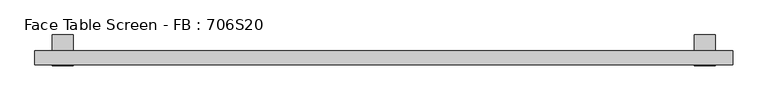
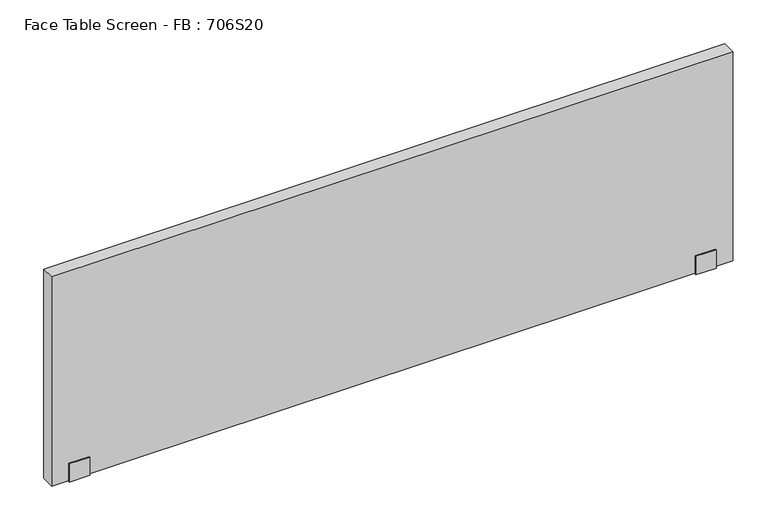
"""IFC4 building model written with IfcOpenShell, lengths in millimetres: furniture geometry, Face Table Screen - FB : 706S20."""

import ifcopenshell
import ifcopenshell.guid

model = None  # the IFC model being written
_history = None  # IfcOwnerHistory: only IFC2X3 demands one
_inside = {}  # id of a spatial element -> (the spatial element, [elements in it])
_under = {}  # id of a project, library or spatial element -> (it, [spatial elements below it])
_declared = {}  # id of a project -> (the project, [libraries it declares])
_typed = {}  # id of a type object -> (the type object, [elements of that type])
_made_of = {}  # id of a material, layer set ... -> (it, [elements and type objects made of it])


def new_model(schema):
    """Start an empty IFC model of exactly this schema.

    Asked for "IFC4X3", IfcOpenShell would pick the latest addendum, in which some entities
    have other attributes; the version numbers below select the first issue.
    IFC2X3 requires an IfcOwnerHistory on every rooted entity: one is made here for all.
    """
    global model, _history
    if schema == "IFC4X3":
        model = ifcopenshell.file(schema_version=(4, 3, 0, 0))
    else:
        model = ifcopenshell.file(schema=schema)
    _inside.clear()
    _under.clear()
    _declared.clear()
    _typed.clear()
    _made_of.clear()
    _history = None
    if model.schema == "IFC2X3":
        org = make("IfcOrganization", Name="unknown")
        user = make(
            "IfcPersonAndOrganization",
            ThePerson=make("IfcPerson", FamilyName="unknown"),
            TheOrganization=org,
        )
        app = make(
            "IfcApplication",
            ApplicationDeveloper=org,
            Version="unknown",
            ApplicationFullName="unknown",
            ApplicationIdentifier="unknown",
        )
        _history = make(
            "IfcOwnerHistory",
            OwningUser=user,
            OwningApplication=app,
            ChangeAction="ADDED",
            CreationDate=0,
        )
    return model


def make(cls, **values):
    """One entity of the class cls with the attributes given. An attribute that is None is left unset."""
    return model.create_entity(
        cls, **{name: value for name, value in values.items() if value is not None}
    )


def rooted(cls, **values):
    """An entity with a GlobalId (a new one), such as an element, a storey or a relation."""
    return make(cls, GlobalId=ifcopenshell.guid.new(), OwnerHistory=_history, **values)


def si_unit(unit_type, name, prefix=None):
    """IfcSIUnit, for example si_unit("LENGTHUNIT", "METRE", prefix="MILLI")."""
    return make("IfcSIUnit", UnitType=unit_type, Prefix=prefix, Name=name)


def assignment(units):
    """IfcUnitAssignment: the units of a project."""
    return None if units is None else make("IfcUnitAssignment", Units=units)


def point(xyz):
    """IfcCartesianPoint."""
    return None if xyz is None else make("IfcCartesianPoint", Coordinates=xyz)


def direction(xyz):
    """IfcDirection."""
    return None if xyz is None else make("IfcDirection", DirectionRatios=xyz)


def frame(location, z_axis=None, x_axis=None):
    """IfcAxis2Placement3D, a coordinate frame: its origin and axes. An axis left out is left unset."""
    return make(
        "IfcAxis2Placement3D",
        Location=point(location),
        Axis=direction(z_axis),
        RefDirection=direction(x_axis),
    )


def origin():
    """The frame at (0, 0, 0) with its axes left unset."""
    return frame((0.0, 0.0, 0.0))


def place(relative_to, where):
    """IfcLocalPlacement: puts the frame where relative to a parent placement (None: the world)."""
    return make(
        "IfcLocalPlacement", PlacementRelTo=relative_to, RelativePlacement=where
    )


def context(
    kind, dimensions, precision=None, world=None, true_north=None, identifier=None
):
    """IfcGeometricRepresentationContext, for example the 3D "Model" context."""
    return make(
        "IfcGeometricRepresentationContext",
        ContextIdentifier=identifier,
        ContextType=kind,
        CoordinateSpaceDimension=dimensions,
        Precision=precision,
        WorldCoordinateSystem=world,
        TrueNorth=true_north,
    )


def project(units=None, contexts=None):
    """IfcProject with its units and contexts."""
    return rooted(
        "IfcProject",
        Name="project",
        RepresentationContexts=contexts,
        UnitsInContext=assignment(units),
    )


def spatial(cls, under=None, at=None, **own):
    """A site, building, storey or space (cls), placed at a placement, below another one or the project."""
    s = rooted(cls, ObjectPlacement=at, **own)
    if under is not None:
        _under.setdefault(under.id(), (under, []))[1].append(s)
    return s


def polyline(points):
    """IfcPolyline through the points."""
    return make("IfcPolyline", Points=[point(p) for p in points])


def outline(outer, holes=None, kind="AREA"):
    """IfcArbitraryClosedProfileDef: a profile drawn as a closed curve; with holes, ...WithVoids."""
    if holes is None:
        return make("IfcArbitraryClosedProfileDef", ProfileType=kind, OuterCurve=outer)
    return make(
        "IfcArbitraryProfileDefWithVoids",
        ProfileType=kind,
        OuterCurve=outer,
        InnerCurves=holes,
    )


def extrude(swept, where, along, depth):
    """IfcExtrudedAreaSolid: the profile swept, set in the frame where, extruded along a direction by depth."""
    return make(
        "IfcExtrudedAreaSolid",
        SweptArea=swept,
        Position=where,
        ExtrudedDirection=direction(along),
        Depth=depth,
    )


def shape(context_of_items, identifier, shape_type, items):
    """IfcShapeRepresentation: the items that make up one representation, for example the "Body"."""
    return make(
        "IfcShapeRepresentation",
        ContextOfItems=context_of_items,
        RepresentationIdentifier=identifier,
        RepresentationType=shape_type,
        Items=items,
    )


def source(mapping_origin, context_of_items, identifier, shape_type, items):
    """IfcRepresentationMap: a shape defined once, which mapped items show again and again."""
    return make(
        "IfcRepresentationMap",
        MappingOrigin=mapping_origin,
        MappedRepresentation=shape(context_of_items, identifier, shape_type, items),
    )


def transform(
    local_origin,
    x_axis=None,
    y_axis=None,
    z_axis=None,
    scale=None,
    scale2=None,
    scale3=None,
    uniform=True,
):
    """IfcCartesianTransformationOperator3D, or its non-uniform kind. x_axis, y_axis, z_axis: its Axis1, 2, 3."""
    if uniform:
        return make(
            "IfcCartesianTransformationOperator3D",
            Axis1=direction(x_axis),
            Axis2=direction(y_axis),
            LocalOrigin=point(local_origin),
            Scale=scale,
            Axis3=direction(z_axis),
        )
    return make(
        "IfcCartesianTransformationOperator3DnonUniform",
        Axis1=direction(x_axis),
        Axis2=direction(y_axis),
        LocalOrigin=point(local_origin),
        Scale=scale,
        Axis3=direction(z_axis),
        Scale2=scale2,
        Scale3=scale3,
    )


def mapped(mapping_source, mapping_target):
    """IfcMappedItem: shows the shape of a source again, moved by a transform."""
    return make(
        "IfcMappedItem", MappingSource=mapping_source, MappingTarget=mapping_target
    )


def made_of(thing, what):
    """Note that an element or type object is made of a material, layer set ...; save() writes the relation."""
    if what is not None:
        _made_of.setdefault(what.id(), (what, []))[1].append(thing)
    return thing


def element(
    cls,
    number,
    at=None,
    inside=None,
    cuts=None,
    type_object=None,
    material=None,
    context=None,
    identifier="Body",
    shape_type=None,
    held_by="IfcProductDefinitionShape",
    body=None,
    shapes=None,
    **own,
):
    """One element of the class cls, such as IfcWall. Its Tag is "e" and its number.

    at: its placement. inside: the storey or other place that contains it. cuts: it is an
    opening in that element (IfcRelVoidsElement). A single representation is given by context,
    identifier, shape_type and body (its items); several are given by shapes. held_by: the class
    of the entity that holds the representations. save() writes the other relations.
    """
    e = rooted(cls, Tag="e%d" % number, ObjectPlacement=at, **own)
    if body is not None:
        shapes = [shape(context, identifier, shape_type, body)]
    if shapes is not None:
        e.Representation = make(held_by, Representations=shapes)
    if inside is not None:
        _inside.setdefault(inside.id(), (inside, []))[1].append(e)
    if cuts is not None:
        rooted(
            "IfcRelVoidsElement", RelatingBuildingElement=cuts, RelatedOpeningElement=e
        )
    if type_object is not None:
        _typed.setdefault(type_object.id(), (type_object, []))[1].append(e)
    return made_of(e, material)


def aggregate(whole, parts):
    """IfcRelAggregates: a whole, such as a stair, and the parts it consists of."""
    return rooted("IfcRelAggregates", RelatingObject=whole, RelatedObjects=parts)


def save(model, path):
    """Write the relations noted so far, then the file.

    IfcRelAggregates (storeys below a building ...), IfcRelContainedInSpatialStructure (elements
    in a storey), IfcRelDefinesByType, IfcRelAssociatesMaterial and IfcRelDeclares: one each for
    every whole, place, type object, material and project.
    """
    for whole, parts in _under.values():
        aggregate(whole, parts)
    for where, things in _inside.values():
        rooted(
            "IfcRelContainedInSpatialStructure",
            RelatedElements=things,
            RelatingStructure=where,
        )
    for kind, things in _typed.values():
        rooted("IfcRelDefinesByType", RelatedObjects=things, RelatingType=kind)
    for what, things in _made_of.values():
        rooted("IfcRelAssociatesMaterial", RelatedObjects=things, RelatingMaterial=what)
    for by, libraries in _declared.values():
        rooted("IfcRelDeclares", RelatingContext=by, RelatedDefinitions=libraries)
    model.write(path)


def face_table_screen_fb_706s20_892f0159(model_context):
    return source(origin(), model_context, "Body", "SweptSolid", [
        extrude(outline(polyline([(-42.9999947, -156.0), (-42.9999997, -99.0433898), (-40.0, -99.0433898), (-40.0, -153.0), (0.0, -153.0), (0.0, -22.0), (45.0, -22.0), (45.0, -25.0433898), (3.0000062, -25.0433898), (2.9999947, -156.0), (-42.9999947, -156.0)])), frame((909.9863751, 0.0, 0.0), z_axis=(1.0, 0.0, 0.0), x_axis=(0.0, 1.0, 0.0)), (0.0, 0.0, 1.0), 60.0),
        extrude(outline(polyline([(-42.9999947, -156.0), (-42.9999997, -99.0433898), (-40.0, -99.0433898), (-40.0, -153.0), (0.0, -153.0), (0.0, -22.0), (45.0, -22.0), (45.0, -25.0433898), (3.0000062, -25.0433898), (2.9999947, -156.0), (-42.9999947, -156.0)])), frame((-930.0136249, 0.0, 0.0), z_axis=(1.0, 0.0, 0.0), x_axis=(0.0, 1.0, 0.0)), (0.0, 0.0, 1.0), 60.0),
        extrude(outline(polyline([(1019.9863751, -40.0), (-980.0136249, -40.0), (-980.0136249, 0.0), (1019.9863751, 0.0), (1019.9863751, -40.0)])), frame((0.0, 0.0, -153.0), z_axis=(0.0, 0.0, 1.0), x_axis=(1.0, 0.0, 0.0)), (0.0, 0.0, 1.0), 650.0),
    ])


if __name__ == "__main__":
    model = new_model("IFC4")
    model_context = context("Model", 3, world=origin())
    ifc_project = project(units=[si_unit("LENGTHUNIT", "METRE", prefix="MILLI")], contexts=[model_context])
    site = spatial("IfcSite", under=ifc_project)
    building = spatial("IfcBuilding", under=site)
    placement = place(None, origin())
    face_table_screen_fb_706s20_shape = face_table_screen_fb_706s20_892f0159(model_context)
    element("IfcFurniture", 1, ObjectType="Face Table Screen - FB : 706S20", at=placement, inside=building, context=model_context, shape_type="MappedRepresentation", body=[
        mapped(face_table_screen_fb_706s20_shape, transform((0.0, 0.0, 0.0), x_axis=(1.0, 0.0, 0.0), y_axis=(0.0, 1.0, 0.0), z_axis=(0.0, 0.0, 1.0))),
    ])
    save(model, "model.ifc")
